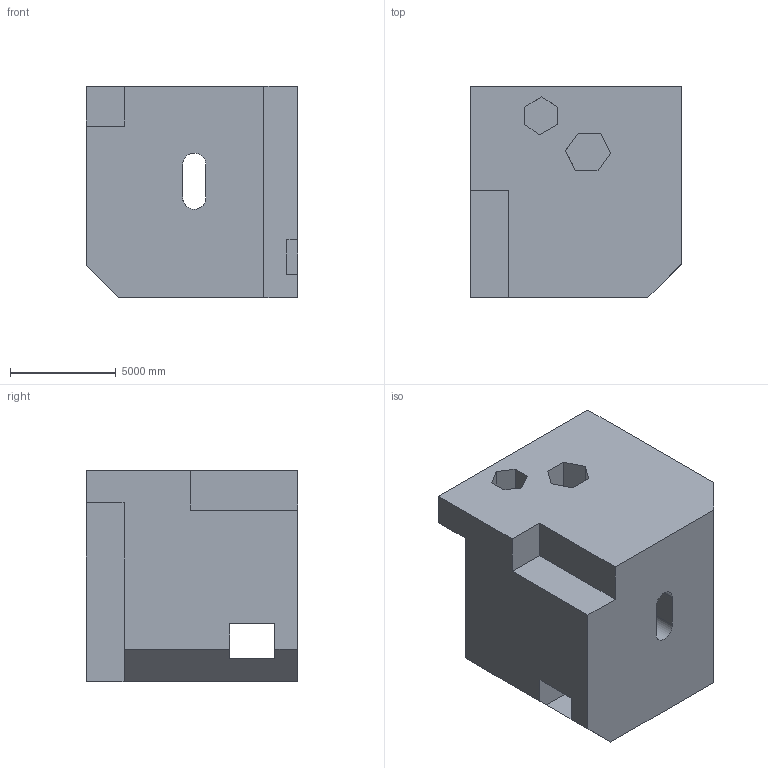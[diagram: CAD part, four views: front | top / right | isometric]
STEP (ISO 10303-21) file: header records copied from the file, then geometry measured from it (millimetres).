
FILE_DESCRIPTION (( 'STEP AP203' ), '1' );
FILE_NAME ('171.STEP', '2022-09-06T15:20:21', ( 'user' ), ( '' ), 'SwSTEP 2.0', 'SolidWorks 2021', '' );
FILE_SCHEMA (( 'CONFIG_CONTROL_DESIGN' ));
Length unit declared in the file: centimetre
Products named in the file (1): 171
Bounding box: 10000 x 10000 x 10000 mm (x, y, z)
Volume: 849567256738.6 mm3; surface area: 744002623.8 mm2
Topology: 1 solids, 1 shells, 42 faces, 126 edges, 84 vertices
Faces by surface type: plane 36, cylinder 6
Entity records: 1491 total; most frequent: CARTESIAN_POINT 265, ORIENTED_EDGE 252, DIRECTION 220, EDGE_CURVE 126, VECTOR 110, LINE 110, VERTEX_POINT 84, AXIS2_PLACEMENT_3D 55
